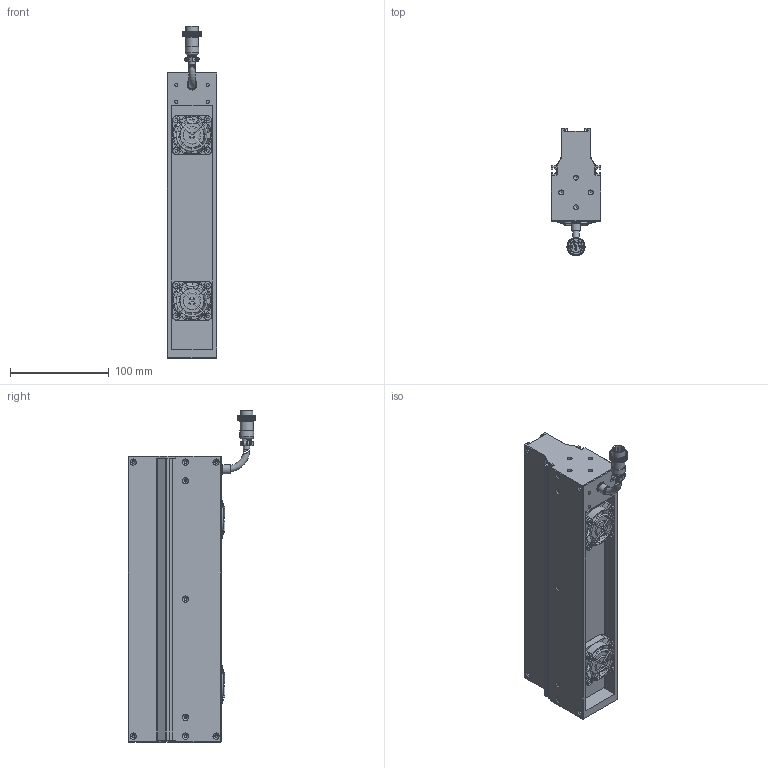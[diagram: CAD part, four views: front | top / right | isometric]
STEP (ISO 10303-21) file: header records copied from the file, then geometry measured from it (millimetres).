
FILE_DESCRIPTION (( 'STEP AP203' ), '1' );
FILE_NAME ('OPT-LSS290-R-V3.1尨砩芞.STEP', '2025-01-21T00:26:47', ( 'USER' ), ( '' ), 'SwSTEP 2.0', 'SolidWorks 2016', '' );
FILE_SCHEMA (( 'CONFIG_CONTROL_DESIGN' ));
Products named in the file (2): OPT-LSS290-R-V3.1尨砩芞
Bounding box: 50 x 129.15 x 336.83 mm (x, y, z)
Volume: 968873 mm3; surface area: 155213.1 mm2
Topology: 13 solids, 21 shells, 3714 faces, 8207 edges, 4600 vertices
Faces by surface type: bspline 2113, cylinder 760, plane 670, torus 118, cone 53
Full cylindrical faces by diameter (mm): 0.95 x6, 1.1 x2, 1.4 x2, 1.6 x8, 2 x6, 2.5 x18, 3.2 x12, 3.4 x18, 4 x4, 5 x8, 6.2 x8, 6.4 x3, 7.5 x1, 8.6 x1, 9.3 x1, 9.8 x1, 10 x1, 13.2 x1, 14 x1, 16.1 x1, 24.8 x2, 38 x2
Entity records: 125227 total; most frequent: CARTESIAN_POINT 63303, ORIENTED_EDGE 15866, EDGE_CURVE 7933, DIRECTION 6210, B_SPLINE_CURVE_WITH_KNOTS 5588, VERTEX_POINT 4538, EDGE_LOOP 4021, FACE_OUTER_BOUND 3865
